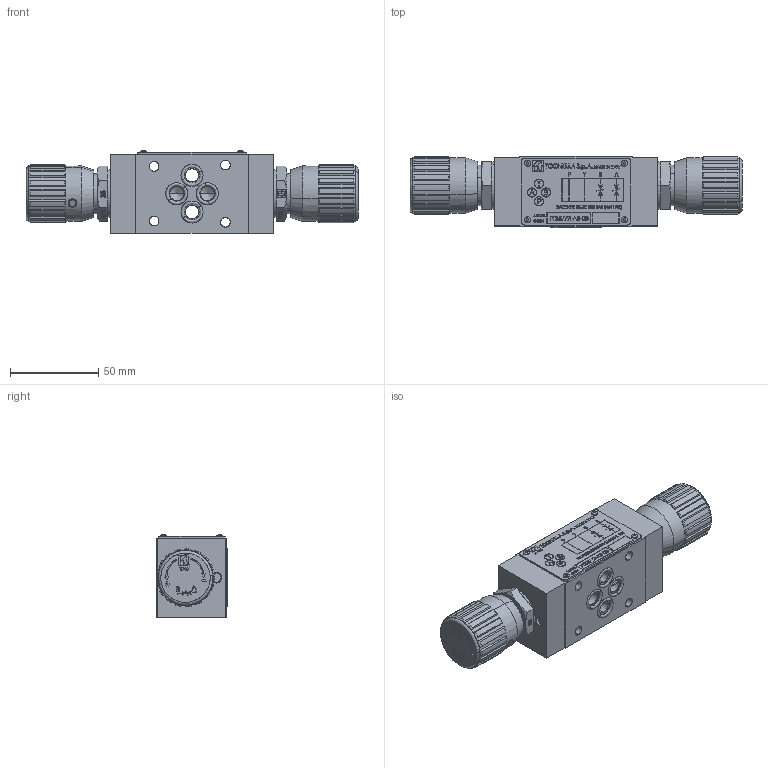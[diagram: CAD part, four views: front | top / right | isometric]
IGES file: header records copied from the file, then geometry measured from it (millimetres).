
Start section: SolidWorks IGES file using analytic representation for surfaces
Global section: file name: C:\Users\user\Desktop\FT357-2\FT357-2-AB-03.IGS; native system: SolidWorks 2014; preprocessor: SolidWorks 2014; author: user; date: 140616.160314; units: millimetre
Bounding box: 188.6 x 40.38 x 46.96 mm (x, y, z)
Surface area: 74136.7 mm2 (no closed solid volume)
Topology: 0 solids, 0 shells, 2618 faces, 28956 edges, 28940 vertices
Faces by surface type: bspline 2086, revolution 532
